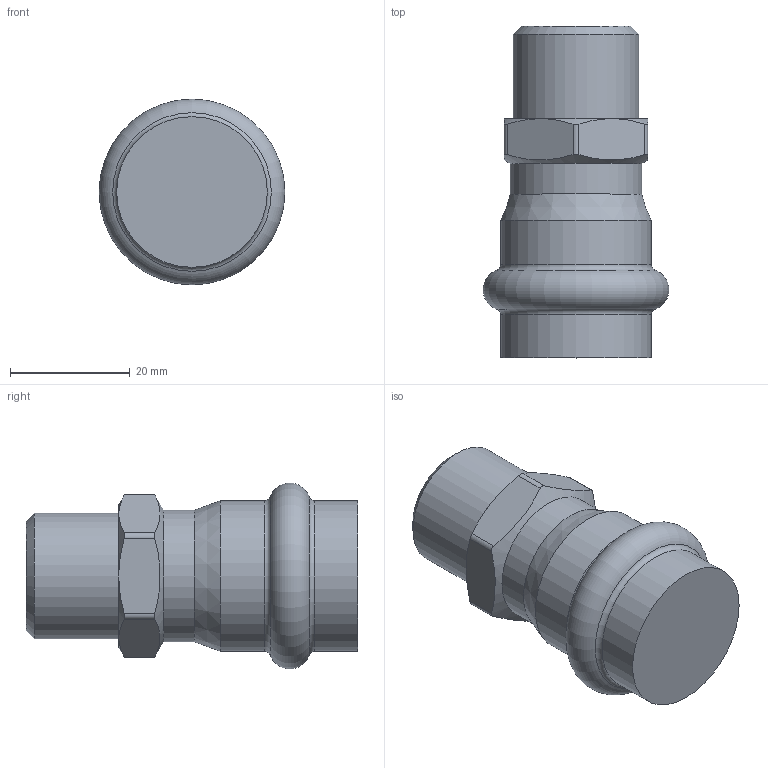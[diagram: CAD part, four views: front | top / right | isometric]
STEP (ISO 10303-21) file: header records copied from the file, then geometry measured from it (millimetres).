
FILE_DESCRIPTION(('STEP AP203'), '1');
FILE_NAME('VTi.901.I.002204', '', ('UNSPECIFIED'), ('UNSPECIFIED'), 'C3D Converter', 'C3D Toolkit', '');
FILE_SCHEMA(('CONFIG_CONTROL_DESIGN'));
Length unit declared in the file: millimetre
Bounding box: 31.09 x 55.5 x 31.09 mm (x, y, z)
Volume: 25623 mm3; surface area: 5456.2 mm2
Topology: 1 solids, 1 shells, 31 faces, 71 edges, 43 vertices
Faces by surface type: cylinder 10, plane 9, cone 9, torus 3
Full cylindrical faces by diameter (mm): 20.955 x1, 22 x1, 25.2 x2
Entity records: 1678 total; most frequent: CARTESIAN_POINT 1027, ORIENTED_EDGE 122, DIRECTION 112, EDGE_CURVE 61, AXIS2_PLACEMENT_3D 50, VERTEX_POINT 43, EDGE_LOOP 42, ADVANCED_FACE 31
